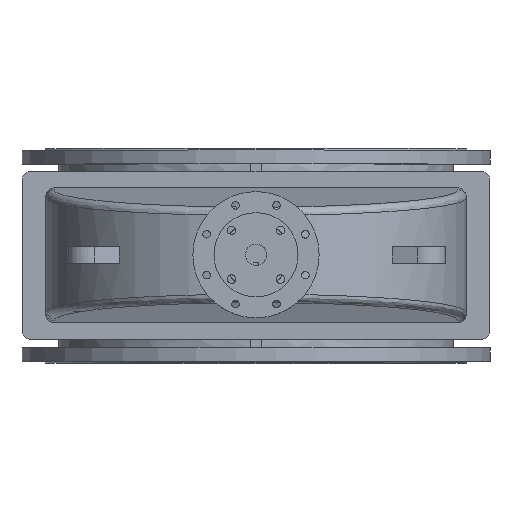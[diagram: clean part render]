
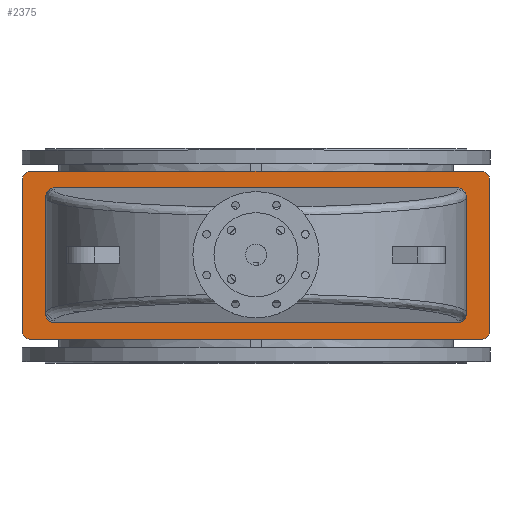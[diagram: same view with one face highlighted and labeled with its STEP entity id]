
A CAD part, top view. The second image highlights one B-rep face of the part: STEP entity #2375.
In plain terms, the highlighted planar face has unit normal (0, 0, 1).
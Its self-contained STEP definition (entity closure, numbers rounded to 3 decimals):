
#2375=ADVANCED_FACE('',(#7449,#7451),#7453,.T.);
#7449=FACE_BOUND('',#7450,.T.);
#7450=EDGE_LOOP('',(#9729,#9730,#9731,#9732,#9733,#9734,#9735,#9736));
#7451=FACE_BOUND('',#7452,.T.);
#7452=EDGE_LOOP('',(#9737,#9738,#9739,#9740,#9741,#9742,#9743,#9744));
#7453=PLANE('',#7454);
#7454=AXIS2_PLACEMENT_3D('',#7455,#7456,#7457);
#7455=CARTESIAN_POINT('',(0.,0.,1016.));
#7456=DIRECTION('',(0.,-0.,1.));
#7457=DIRECTION('',(0.,1.,0.));
#9729=ORIENTED_EDGE('',*,*,#10529,.F.);
#9730=ORIENTED_EDGE('',*,*,#10542,.T.);
#9731=ORIENTED_EDGE('',*,*,#10541,.F.);
#9732=ORIENTED_EDGE('',*,*,#10539,.T.);
#9733=ORIENTED_EDGE('',*,*,#10537,.F.);
#9734=ORIENTED_EDGE('',*,*,#10535,.T.);
#9735=ORIENTED_EDGE('',*,*,#10533,.F.);
#9736=ORIENTED_EDGE('',*,*,#10530,.T.);
#9737=ORIENTED_EDGE('',*,*,#10543,.F.);
#9738=ORIENTED_EDGE('',*,*,#10544,.F.);
#9739=ORIENTED_EDGE('',*,*,#10545,.F.);
#9740=ORIENTED_EDGE('',*,*,#10546,.F.);
#9741=ORIENTED_EDGE('',*,*,#10547,.F.);
#9742=ORIENTED_EDGE('',*,*,#10548,.F.);
#9743=ORIENTED_EDGE('',*,*,#10549,.F.);
#9744=ORIENTED_EDGE('',*,*,#10550,.F.);
#10529=EDGE_CURVE('',#11647,#11645,#11649,.F.);
#10530=EDGE_CURVE('',#11650,#11645,#11651,.T.);
#10533=EDGE_CURVE('',#11650,#11653,#11655,.F.);
#10535=EDGE_CURVE('',#11656,#11653,#11658,.T.);
#10537=EDGE_CURVE('',#11656,#11659,#11661,.F.);
#10539=EDGE_CURVE('',#11662,#11659,#11664,.T.);
#10541=EDGE_CURVE('',#11662,#11665,#11667,.F.);
#10542=EDGE_CURVE('',#11647,#11665,#11668,.T.);
#10543=EDGE_CURVE('',#11669,#11670,#11671,.F.);
#10544=EDGE_CURVE('',#11672,#11669,#11673,.T.);
#10545=EDGE_CURVE('',#11674,#11672,#11675,.T.);
#10546=EDGE_CURVE('',#11676,#11674,#11677,.T.);
#10547=EDGE_CURVE('',#11678,#11676,#11679,.F.);
#10548=EDGE_CURVE('',#11680,#11678,#11681,.T.);
#10549=EDGE_CURVE('',#11682,#11680,#11683,.T.);
#10550=EDGE_CURVE('',#11670,#11682,#11684,.T.);
#11645=VERTEX_POINT('',#14984);
#11647=VERTEX_POINT('',#14988);
#11649=CIRCLE('',#14992,20.);
#11650=VERTEX_POINT('',#14996);
#11651=LINE('',#14997,#14998);
#11653=VERTEX_POINT('',#15003);
#11655=CIRCLE('',#15007,20.);
#11656=VERTEX_POINT('',#15011);
#11658=LINE('',#15015,#15016);
#11659=VERTEX_POINT('',#15018);
#11661=CIRCLE('',#15022,20.);
#11662=VERTEX_POINT('',#15026);
#11664=LINE('',#15030,#15031);
#11665=VERTEX_POINT('',#15033);
#11667=CIRCLE('',#15037,20.);
#11668=LINE('',#15041,#15042);
#11669=VERTEX_POINT('',#15044);
#11670=VERTEX_POINT('',#15045);
#11671=(BOUNDED_CURVE()B_SPLINE_CURVE(3,
(#15046,#15047,#15048,#15049),
.UNSPECIFIED.,.F.,.F.)B_SPLINE_CURVE_WITH_KNOTS((4,4),
(0.,1.),
.UNSPECIFIED.)CURVE()GEOMETRIC_REPRESENTATION_ITEM()RATIONAL_B_SPLINE_CURVE((1.,
0.805,0.805,1.))REPRESENTATION_ITEM(''));
#11672=VERTEX_POINT('',#15050);
#11673=LINE('',#15051,#15052);
#11674=VERTEX_POINT('',#15054);
#11675=(BOUNDED_CURVE()B_SPLINE_CURVE(3,
(#15055,#15056,#15057,#15058),
.UNSPECIFIED.,.F.,.F.)B_SPLINE_CURVE_WITH_KNOTS((4,4),
(0.,1.),
.UNSPECIFIED.)CURVE()GEOMETRIC_REPRESENTATION_ITEM()RATIONAL_B_SPLINE_CURVE((1.,
0.805,0.805,1.))REPRESENTATION_ITEM(''));
#11676=VERTEX_POINT('',#15059);
#11677=LINE('',#15060,#15061);
#11678=VERTEX_POINT('',#15063);
#11679=(BOUNDED_CURVE()B_SPLINE_CURVE(3,
(#15064,#15065,#15066,#15067),
.UNSPECIFIED.,.F.,.F.)B_SPLINE_CURVE_WITH_KNOTS((4,4),
(0.,1.),
.UNSPECIFIED.)CURVE()GEOMETRIC_REPRESENTATION_ITEM()RATIONAL_B_SPLINE_CURVE((1.,
0.805,0.805,1.))REPRESENTATION_ITEM(''));
#11680=VERTEX_POINT('',#15068);
#11681=LINE('',#15069,#15070);
#11682=VERTEX_POINT('',#15072);
#11683=(BOUNDED_CURVE()B_SPLINE_CURVE(3,
(#15073,#15074,#15075,#15076),
.UNSPECIFIED.,.F.,.F.)B_SPLINE_CURVE_WITH_KNOTS((4,4),
(0.,1.),
.UNSPECIFIED.)CURVE()GEOMETRIC_REPRESENTATION_ITEM()RATIONAL_B_SPLINE_CURVE((1.,
0.805,0.805,1.))REPRESENTATION_ITEM(''));
#11684=LINE('',#15077,#15078);
#14984=CARTESIAN_POINT('',(-555.,-180.,1016.));
#14988=CARTESIAN_POINT('',(-535.,-200.,1016.));
#14992=AXIS2_PLACEMENT_3D('',#14993,#14994,#14995);
#14993=CARTESIAN_POINT('',(-535.,-180.,1016.));
#14994=DIRECTION('',(0.,-0.,1.));
#14995=DIRECTION('',(-1.,0.,0.));
#14996=CARTESIAN_POINT('',(-555.,180.,1016.));
#14997=CARTESIAN_POINT('',(-555.,180.,1016.));
#14998=VECTOR('',#14999,1.);
#14999=DIRECTION('',(0.,-1.,0.));
#15003=CARTESIAN_POINT('',(-535.,200.,1016.));
#15007=AXIS2_PLACEMENT_3D('',#15008,#15009,#15010);
#15008=CARTESIAN_POINT('',(-535.,180.,1016.));
#15009=DIRECTION('',(0.,-0.,1.));
#15010=DIRECTION('',(0.,1.,0.));
#15011=CARTESIAN_POINT('',(535.,200.,1016.));
#15015=CARTESIAN_POINT('',(535.,200.,1016.));
#15016=VECTOR('',#15017,1.);
#15017=DIRECTION('',(-1.,0.,0.));
#15018=CARTESIAN_POINT('',(555.,180.,1016.));
#15022=AXIS2_PLACEMENT_3D('',#15023,#15024,#15025);
#15023=CARTESIAN_POINT('',(535.,180.,1016.));
#15024=DIRECTION('',(0.,-0.,1.));
#15025=DIRECTION('',(1.,0.,0.));
#15026=CARTESIAN_POINT('',(555.,-180.,1016.));
#15030=CARTESIAN_POINT('',(555.,-180.,1016.));
#15031=VECTOR('',#15032,1.);
#15032=DIRECTION('',(0.,1.,0.));
#15033=CARTESIAN_POINT('',(535.,-200.,1016.));
#15037=AXIS2_PLACEMENT_3D('',#15038,#15039,#15040);
#15038=CARTESIAN_POINT('',(535.,-180.,1016.));
#15039=DIRECTION('',(0.,-0.,1.));
#15040=DIRECTION('',(0.,-1.,0.));
#15041=CARTESIAN_POINT('',(-535.,-200.,1016.));
#15042=VECTOR('',#15043,1.);
#15043=DIRECTION('',(1.,0.,0.));
#15044=CARTESIAN_POINT('',(480.,-160.,1016.));
#15045=CARTESIAN_POINT('',(500.,-139.924,1016.));
#15046=CARTESIAN_POINT('',(500.,-139.924,1016.));
#15047=CARTESIAN_POINT('',(500.,-151.684,1016.));
#15048=CARTESIAN_POINT('',(491.716,-160.,1016.));
#15049=CARTESIAN_POINT('',(480.,-160.,1016.));
#15050=CARTESIAN_POINT('',(-480.,-160.,1016.));
#15051=CARTESIAN_POINT('',(-480.,-160.,1016.));
#15052=VECTOR('',#15053,1.);
#15053=DIRECTION('',(1.,0.,0.));
#15054=CARTESIAN_POINT('',(-500.,-139.924,1016.));
#15055=CARTESIAN_POINT('',(-500.,-139.924,1016.));
#15056=CARTESIAN_POINT('',(-500.,-151.684,1016.));
#15057=CARTESIAN_POINT('',(-491.716,-160.,1016.));
#15058=CARTESIAN_POINT('',(-480.,-160.,1016.));
#15059=CARTESIAN_POINT('',(-500.,139.924,1016.));
#15060=CARTESIAN_POINT('',(-500.,139.924,1016.));
#15061=VECTOR('',#15062,1.);
#15062=DIRECTION('',(0.,-1.,0.));
#15063=CARTESIAN_POINT('',(-480.,160.,1016.));
#15064=CARTESIAN_POINT('',(-500.,139.924,1016.));
#15065=CARTESIAN_POINT('',(-500.,151.684,1016.));
#15066=CARTESIAN_POINT('',(-491.716,160.,1016.));
#15067=CARTESIAN_POINT('',(-480.,160.,1016.));
#15068=CARTESIAN_POINT('',(480.,160.,1016.));
#15069=CARTESIAN_POINT('',(480.,160.,1016.));
#15070=VECTOR('',#15071,1.);
#15071=DIRECTION('',(-1.,0.,0.));
#15072=CARTESIAN_POINT('',(500.,139.924,1016.));
#15073=CARTESIAN_POINT('',(500.,139.924,1016.));
#15074=CARTESIAN_POINT('',(500.,151.684,1016.));
#15075=CARTESIAN_POINT('',(491.716,160.,1016.));
#15076=CARTESIAN_POINT('',(480.,160.,1016.));
#15077=CARTESIAN_POINT('',(500.,-139.924,1016.));
#15078=VECTOR('',#15079,1.);
#15079=DIRECTION('',(0.,1.,0.));
